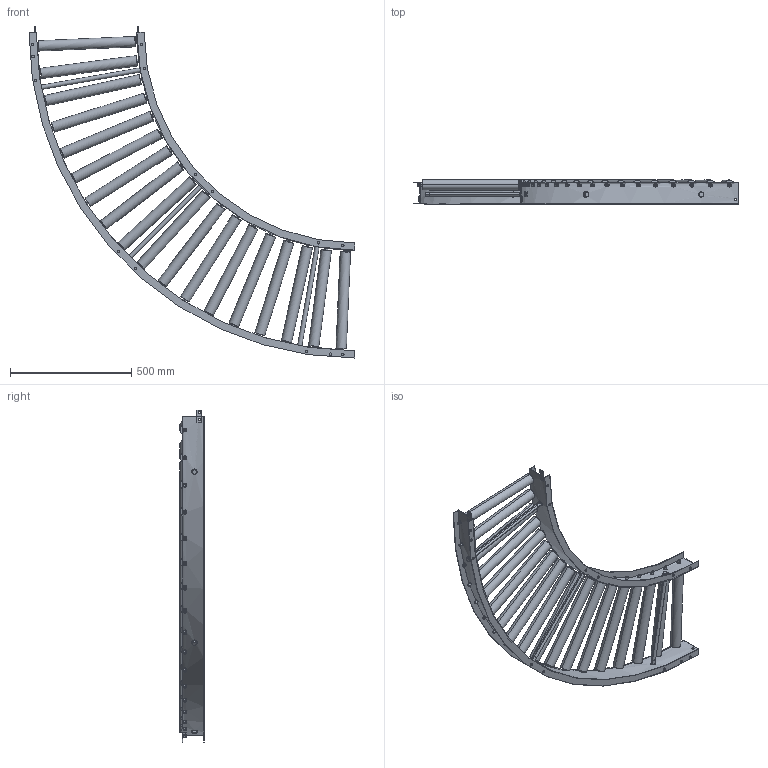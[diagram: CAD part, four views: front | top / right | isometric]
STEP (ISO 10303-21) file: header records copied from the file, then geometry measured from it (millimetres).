
FILE_DESCRIPTION (( 'STEP AP203' ), '1' );
FILE_NAME ('RZ-4223_C.step', '2024-03-15T02:39:35', ( '' ), ( '' ), 'SwSTEP 2.0', 'SolidWorks 2023', '' );
FILE_SCHEMA (( 'CONFIG_CONTROL_DESIGN' ));
Length unit declared in the file: millimetre
Products named in the file (1): RZ-4223_C
Bounding box: 1345 x 100.35 x 1370.08 mm (x, y, z)
Volume: 11152007.3 mm3; surface area: 2996985.1 mm2
Topology: 55 solids, 55 shells, 820 faces, 1896 edges, 1228 vertices
Faces by surface type: cylinder 406, plane 306, torus 72, cone 36
Entity records: 30605 total; most frequent: CARTESIAN_POINT 11349, DIRECTION 4102, ORIENTED_EDGE 3792, EDGE_CURVE 1896, AXIS2_PLACEMENT_3D 1701, VERTEX_POINT 1228, EDGE_LOOP 1068, CIRCLE 880
